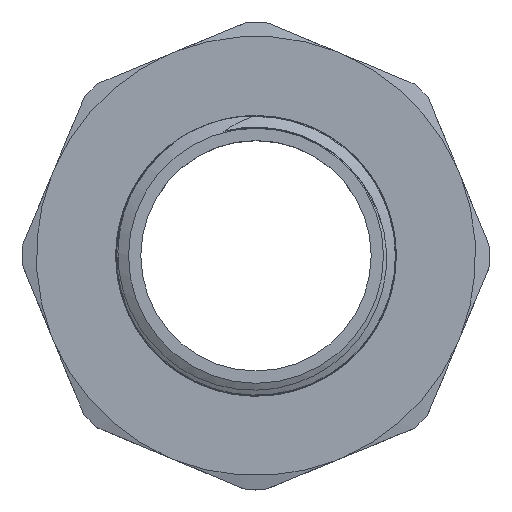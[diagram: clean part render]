
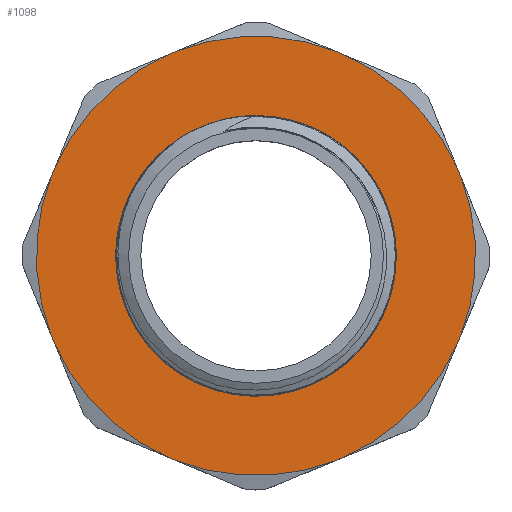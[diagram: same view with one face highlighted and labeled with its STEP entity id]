
A CAD part, top view. The second image highlights one B-rep face of the part: STEP entity #1098.
In plain terms, the highlighted planar face has unit normal (0, 0, 1) by its records, which use the part's own axes.
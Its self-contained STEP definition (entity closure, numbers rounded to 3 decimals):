
#15=PLANE('',#1212);
#79=FACE_BOUND('',#171,.T.);
#108=FACE_OUTER_BOUND('',#170,.T.);
#170=EDGE_LOOP('',(#846,#847,#848,#849,#850,#851,#852,#853,#854,#855,#856,
#857,#858,#859,#860,#861));
#171=EDGE_LOOP('',(#862,#863));
#213=CIRCLE('',#1158,19.475);
#214=CIRCLE('',#1159,19.475);
#218=CIRCLE('',#1174,30.507);
#220=CIRCLE('',#1177,30.507);
#222=CIRCLE('',#1180,30.507);
#224=CIRCLE('',#1183,30.507);
#226=CIRCLE('',#1186,30.507);
#228=CIRCLE('',#1189,30.507);
#230=CIRCLE('',#1192,30.507);
#232=CIRCLE('',#1195,30.507);
#332=LINE('',#4039,#381);
#333=LINE('',#4040,#382);
#334=LINE('',#4041,#383);
#335=LINE('',#4042,#384);
#336=LINE('',#4043,#385);
#337=LINE('',#4044,#386);
#338=LINE('',#4045,#387);
#339=LINE('',#4046,#388);
#381=VECTOR('',#1393,10.);
#382=VECTOR('',#1394,10.);
#383=VECTOR('',#1395,10.);
#384=VECTOR('',#1396,10.);
#385=VECTOR('',#1397,10.);
#386=VECTOR('',#1398,10.);
#387=VECTOR('',#1399,10.);
#388=VECTOR('',#1400,10.);
#418=VERTEX_POINT('',#1557);
#419=VERTEX_POINT('',#1559);
#450=VERTEX_POINT('',#2545);
#452=VERTEX_POINT('',#2551);
#454=VERTEX_POINT('',#2558);
#456=VERTEX_POINT('',#2564);
#458=VERTEX_POINT('',#2571);
#460=VERTEX_POINT('',#2577);
#462=VERTEX_POINT('',#2584);
#464=VERTEX_POINT('',#2590);
#466=VERTEX_POINT('',#2597);
#468=VERTEX_POINT('',#2603);
#470=VERTEX_POINT('',#2610);
#472=VERTEX_POINT('',#2616);
#474=VERTEX_POINT('',#2623);
#476=VERTEX_POINT('',#2629);
#479=VERTEX_POINT('',#2638);
#480=VERTEX_POINT('',#2642);
#536=EDGE_CURVE('',#418,#419,#213,.T.);
#537=EDGE_CURVE('',#419,#418,#214,.T.);
#581=EDGE_CURVE('',#450,#452,#218,.T.);
#585=EDGE_CURVE('',#454,#456,#220,.T.);
#589=EDGE_CURVE('',#458,#460,#222,.T.);
#593=EDGE_CURVE('',#462,#464,#224,.T.);
#597=EDGE_CURVE('',#466,#468,#226,.T.);
#601=EDGE_CURVE('',#470,#472,#228,.T.);
#605=EDGE_CURVE('',#474,#476,#230,.T.);
#608=EDGE_CURVE('',#480,#479,#232,.T.);
#645=EDGE_CURVE('',#479,#474,#332,.T.);
#646=EDGE_CURVE('',#476,#470,#333,.T.);
#647=EDGE_CURVE('',#472,#466,#334,.T.);
#648=EDGE_CURVE('',#468,#462,#335,.T.);
#649=EDGE_CURVE('',#464,#458,#336,.T.);
#650=EDGE_CURVE('',#460,#454,#337,.T.);
#651=EDGE_CURVE('',#456,#450,#338,.T.);
#652=EDGE_CURVE('',#452,#480,#339,.T.);
#846=ORIENTED_EDGE('',*,*,#608,.T.);
#847=ORIENTED_EDGE('',*,*,#645,.T.);
#848=ORIENTED_EDGE('',*,*,#605,.T.);
#849=ORIENTED_EDGE('',*,*,#646,.T.);
#850=ORIENTED_EDGE('',*,*,#601,.T.);
#851=ORIENTED_EDGE('',*,*,#647,.T.);
#852=ORIENTED_EDGE('',*,*,#597,.T.);
#853=ORIENTED_EDGE('',*,*,#648,.T.);
#854=ORIENTED_EDGE('',*,*,#593,.T.);
#855=ORIENTED_EDGE('',*,*,#649,.T.);
#856=ORIENTED_EDGE('',*,*,#589,.T.);
#857=ORIENTED_EDGE('',*,*,#650,.T.);
#858=ORIENTED_EDGE('',*,*,#585,.T.);
#859=ORIENTED_EDGE('',*,*,#651,.T.);
#860=ORIENTED_EDGE('',*,*,#581,.T.);
#861=ORIENTED_EDGE('',*,*,#652,.T.);
#862=ORIENTED_EDGE('',*,*,#537,.F.);
#863=ORIENTED_EDGE('',*,*,#536,.F.);
#1098=ADVANCED_FACE('',(#108,#79),#15,.T.);
#1158=AXIS2_PLACEMENT_3D('',#1560,#1269,#1270);
#1159=AXIS2_PLACEMENT_3D('',#1561,#1271,#1272);
#1174=AXIS2_PLACEMENT_3D('',#2555,#1312,#1313);
#1177=AXIS2_PLACEMENT_3D('',#2568,#1318,#1319);
#1180=AXIS2_PLACEMENT_3D('',#2581,#1324,#1325);
#1183=AXIS2_PLACEMENT_3D('',#2594,#1330,#1331);
#1186=AXIS2_PLACEMENT_3D('',#2607,#1336,#1337);
#1189=AXIS2_PLACEMENT_3D('',#2620,#1342,#1343);
#1192=AXIS2_PLACEMENT_3D('',#2633,#1348,#1349);
#1195=AXIS2_PLACEMENT_3D('',#2643,#1354,#1355);
#1212=AXIS2_PLACEMENT_3D('',#4038,#1391,#1392);
#1269=DIRECTION('center_axis',(0.,0.,1.));
#1270=DIRECTION('ref_axis',(1.,0.,0.));
#1271=DIRECTION('center_axis',(0.,0.,1.));
#1272=DIRECTION('ref_axis',(1.,0.,0.));
#1312=DIRECTION('center_axis',(0.,0.,1.));
#1313=DIRECTION('ref_axis',(0.,1.,0.));
#1318=DIRECTION('center_axis',(0.,0.,1.));
#1319=DIRECTION('ref_axis',(0.,1.,0.));
#1324=DIRECTION('center_axis',(0.,0.,1.));
#1325=DIRECTION('ref_axis',(0.,1.,0.));
#1330=DIRECTION('center_axis',(0.,0.,1.));
#1331=DIRECTION('ref_axis',(0.,1.,0.));
#1336=DIRECTION('center_axis',(0.,0.,1.));
#1337=DIRECTION('ref_axis',(0.,1.,0.));
#1342=DIRECTION('center_axis',(0.,0.,1.));
#1343=DIRECTION('ref_axis',(0.,1.,0.));
#1348=DIRECTION('center_axis',(0.,0.,1.));
#1349=DIRECTION('ref_axis',(0.,1.,0.));
#1354=DIRECTION('center_axis',(0.,0.,1.));
#1355=DIRECTION('ref_axis',(0.,1.,0.));
#1391=DIRECTION('center_axis',(0.,0.,1.));
#1392=DIRECTION('ref_axis',(1.,0.,0.));
#1393=DIRECTION('',(0.385,0.923,0.));
#1394=DIRECTION('',(-0.38,0.925,0.));
#1395=DIRECTION('',(-0.923,0.385,0.));
#1396=DIRECTION('',(-0.925,-0.38,0.));
#1397=DIRECTION('',(-0.385,-0.923,0.));
#1398=DIRECTION('',(0.38,-0.925,0.));
#1399=DIRECTION('',(0.923,-0.385,0.));
#1400=DIRECTION('',(0.925,0.38,0.));
#1557=CARTESIAN_POINT('',(0.,19.475,26.996));
#1559=CARTESIAN_POINT('',(0.,-19.475,26.996));
#1560=CARTESIAN_POINT('Origin',(0.,0.,26.996));
#1561=CARTESIAN_POINT('Origin',(0.,0.,26.996));
#2545=CARTESIAN_POINT('',(-11.153,-28.395,26.996));
#2551=CARTESIAN_POINT('',(11.018,-28.447,26.996));
#2555=CARTESIAN_POINT('Origin',(0.,0.,26.996));
#2558=CARTESIAN_POINT('',(-27.965,-12.192,26.996));
#2564=CARTESIAN_POINT('',(-12.324,-27.906,26.996));
#2568=CARTESIAN_POINT('Origin',(0.,0.,26.996));
#2571=CARTESIAN_POINT('',(-28.395,11.153,26.996));
#2577=CARTESIAN_POINT('',(-28.447,-11.018,26.996));
#2581=CARTESIAN_POINT('Origin',(0.,0.,26.996));
#2584=CARTESIAN_POINT('',(-12.192,27.965,26.996));
#2590=CARTESIAN_POINT('',(-27.906,12.324,26.996));
#2594=CARTESIAN_POINT('Origin',(0.,0.,26.996));
#2597=CARTESIAN_POINT('',(11.153,28.395,26.996));
#2603=CARTESIAN_POINT('',(-11.018,28.447,26.996));
#2607=CARTESIAN_POINT('Origin',(0.,0.,26.996));
#2610=CARTESIAN_POINT('',(27.965,12.192,26.996));
#2616=CARTESIAN_POINT('',(12.324,27.906,26.996));
#2620=CARTESIAN_POINT('Origin',(0.,0.,26.996));
#2623=CARTESIAN_POINT('',(28.395,-11.153,26.996));
#2629=CARTESIAN_POINT('',(28.447,11.018,26.996));
#2633=CARTESIAN_POINT('Origin',(0.,0.,26.996));
#2638=CARTESIAN_POINT('',(27.906,-12.324,26.996));
#2642=CARTESIAN_POINT('',(12.192,-27.965,26.996));
#2643=CARTESIAN_POINT('Origin',(0.,0.,26.996));
#4038=CARTESIAN_POINT('Origin',(0.,-19.475,26.996));
#4039=CARTESIAN_POINT('',(23.288,-23.399,26.996));
#4040=CARTESIAN_POINT('',(33.013,-0.078,26.996));
#4041=CARTESIAN_POINT('',(23.399,23.288,26.996));
#4042=CARTESIAN_POINT('',(0.078,33.013,26.996));
#4043=CARTESIAN_POINT('',(-23.288,23.399,26.996));
#4044=CARTESIAN_POINT('',(-33.013,0.078,26.996));
#4045=CARTESIAN_POINT('',(-23.399,-23.288,26.996));
#4046=CARTESIAN_POINT('',(-0.078,-33.013,26.996));
